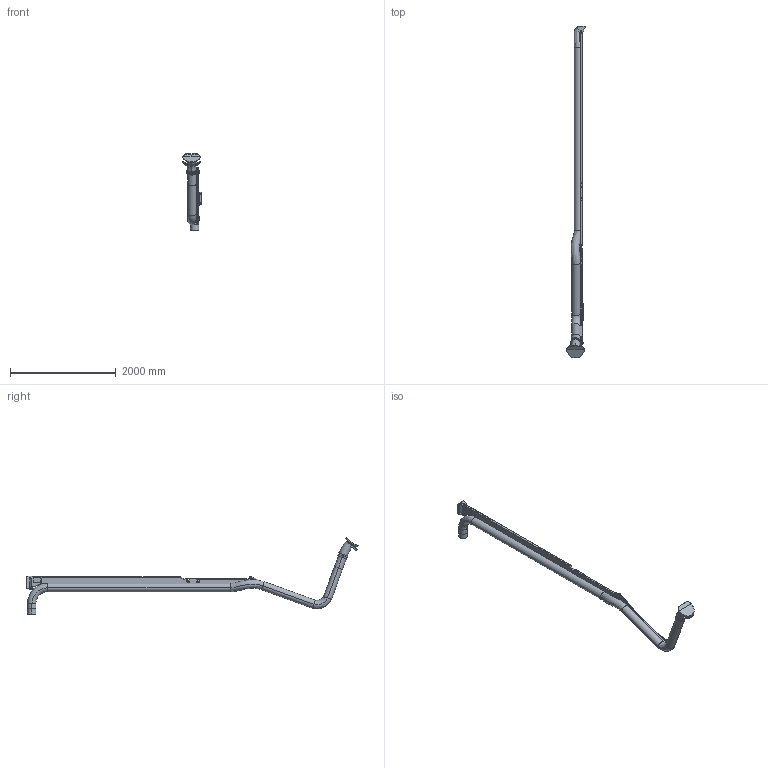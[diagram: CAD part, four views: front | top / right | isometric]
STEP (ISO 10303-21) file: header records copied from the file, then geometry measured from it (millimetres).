
FILE_DESCRIPTION((''),'2;1');
FILE_NAME('PR7000-160','2018-10-01T',('Gustav Stenberg'),(''),'CREO PARAMETRIC BY PTC INC, 2016130','CREO PARAMETRIC BY PTC INC, 2016130','');
FILE_SCHEMA(('AUTOMOTIVE_DESIGN { 1 0 10303 214 1 1 1 1 }'));
Length unit declared in the file: millimetre
Products named in the file (59): 100-6303-02; 100-6301-02; 100-6305-2; 100-6300-03; 100-6303; G_Z_PLATE; 100-6309-1; 100-6309-3; 100-6309; G_PR_TUBE_WALL; 100-6302-02; 100-6302-05; 100-6302-03; 100-6302; 100-6308-01; 100-6308-02; 100-6308-3; 100183; 100-6308; 100066; 102683; 100-5506_L_LIGHT; 100-5506_R_LIGHT; 100-5506; 100-5404-L_LIGHT; 100-5404-R_LIGHT; 100-5404; 100-5914; 100-5913; 100-5915; 135085; 102679; 100-5512-L_LIGHT; 100-512-R_LIGHT; 100-5512; 122219; 102715; 100-5911; 100-5518; 100-6305-1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
Assembly tree (66 placements, depth 5):
  PR7000-160
    100066
      100-6303
        100-6303-02
        100-6301-02
        100-6305-2
        100-6300-03
      100-6309
        G_Z_PLATE  x2
        100-6309-1
        100-6309-3
      100-6302
        G_PR_TUBE_WALL
        100-6302-02  x2
        100-6302-05
        100-6302-03
        100-6305-2
      100-6308
        100183
          100-6308-01
          100-6308-02
          100-6308-3
    134112
      135085
        102683
        100-5506
          100-5506_L_LIGHT
          100-5506_R_LIGHT
        100-5404
          100-5404-L_LIGHT
          100-5404-R_LIGHT
        100-5915  x2
          100-5914
          100-5913
      122219
        102679
        100-5512
          100-5512-L_LIGHT
          100-512-R_LIGHT
      100-5518
        102715
        100-5911
      100-6305
        100-6305-2
        100-6305-1
        100-5911
    100-5721_LIGHT
    100-6341-160
      100-5823C_LIGHT
      100-5862A_LIGHT
      100-5865A_LIGHT
      126056_AF1
    130368
      135584
      STAB_K4-D4
    102118-REF
    130371
      135588
      STAB_K4-D4
    102845-REF
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Bounding box: 346.5 x 6269.06 x 1437.97 mm (x, y, z)
Volume: 28108445.9 mm3; surface area: 9958740.6 mm2
Topology: 51 solids, 52 shells, 1243 faces, 2995 edges, 1852 vertices
Faces by surface type: plane 463, cylinder 425, cone 146, bspline 102, torus 77, sphere 26, extrusion 4
Entity records: 60036 total; most frequent: CARTESIAN_POINT 14566, DIRECTION 5603, ORIENTED_EDGE 5216, EDGE_CURVE 2608, PROPERTY_DEFINITION 2548, REPRESENTATION 2509, PROPERTY_DEFINITION_REPRESENTATION 2509, AXIS2_PLACEMENT_3D 2183
